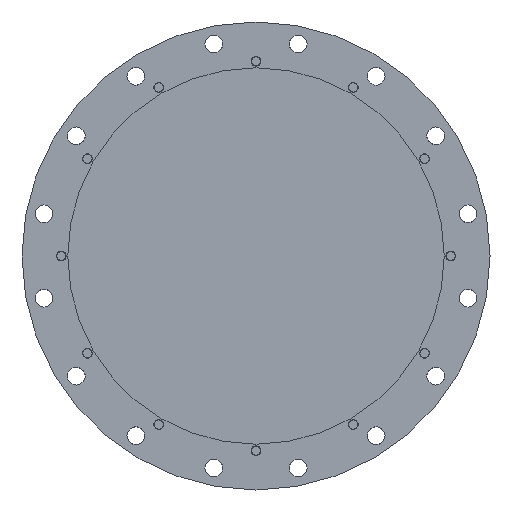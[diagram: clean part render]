
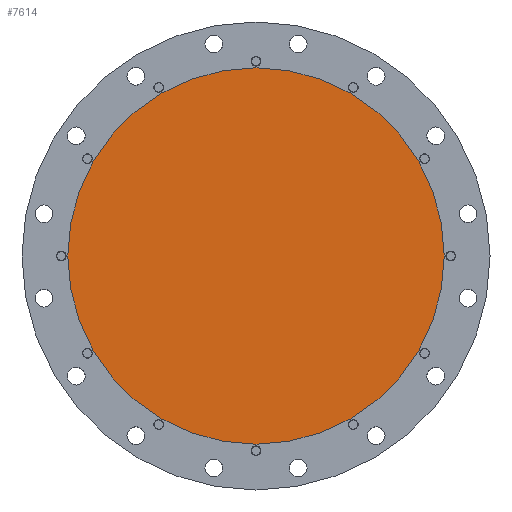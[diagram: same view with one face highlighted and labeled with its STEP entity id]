
A CAD part, left-side view. The second image highlights one B-rep face of the part: STEP entity #7614.
In plain terms, the highlighted planar face has unit normal (-1, 0, 0).
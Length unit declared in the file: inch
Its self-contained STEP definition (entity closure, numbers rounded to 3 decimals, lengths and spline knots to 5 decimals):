
#718 = CARTESIAN_POINT ( 'NONE',  ( 0.1875, 0., 9.25 ) ) ;
#1403 = AXIS2_PLACEMENT_3D ( 'NONE', #4208, #5849, #8270 ) ;
#1416 = FACE_OUTER_BOUND ( 'NONE', #1581, .T. ) ;
#1581 = EDGE_LOOP ( 'NONE', ( #5273, #1981 ) ) ;
#1932 = AXIS2_PLACEMENT_3D ( 'NONE', #9128, #5081, #9802 ) ;
#1981 = ORIENTED_EDGE ( 'NONE', *, *, #3482, .T. ) ;
#3335 = DIRECTION ( 'NONE',  ( 0., 0., 1. ) ) ;
#3482 = EDGE_CURVE ( 'Defeatured_0_79+Defeatured_0_80+Defeatured_0_80+Defeatured_0_80', #9911, #4710, #7140, .T. ) ;
#3490 = CARTESIAN_POINT ( 'NONE',  ( 0.1875, 0., -9.25 ) ) ;
#4173 = PLANE ( 'NONE',  #1403 ) ;
#4208 = CARTESIAN_POINT ( 'NONE',  ( 0.1875, -7.625, 0. ) ) ;
#4275 = DIRECTION ( 'NONE',  ( -1., 0., 0. ) ) ;
#4710 = VERTEX_POINT ( 'NONE', #718 ) ;
#5081 = DIRECTION ( 'NONE',  ( -1., 0., 0. ) ) ;
#5273 = ORIENTED_EDGE ( 'NONE', *, *, #8122, .T. ) ;
#5408 = CIRCLE ( 'NONE', #1932, 9.25 ) ;
#5849 = DIRECTION ( 'NONE',  ( -1., 0., 0. ) ) ;
#6497 = CARTESIAN_POINT ( 'NONE',  ( 0.1875, 0., 0. ) ) ;
#6555 = AXIS2_PLACEMENT_3D ( 'NONE', #6497, #4275, #3335 ) ;
#7140 = CIRCLE ( 'NONE', #6555, 9.25 ) ;
#7614 = ADVANCED_FACE ( 'Defeatured_0_79', ( #1416 ), #4173, .T. ) ;
#8122 = EDGE_CURVE ( 'Defeatured_0_79+Defeatured_0_80+Defeatured_0_80+Defeatured_0_80', #4710, #9911, #5408, .T. ) ;
#8270 = DIRECTION ( 'NONE',  ( 0., 0., 1. ) ) ;
#9128 = CARTESIAN_POINT ( 'NONE',  ( 0.1875, 0., 0. ) ) ;
#9802 = DIRECTION ( 'NONE',  ( 0., 0., 1. ) ) ;
#9911 = VERTEX_POINT ( 'NONE', #3490 ) ;
